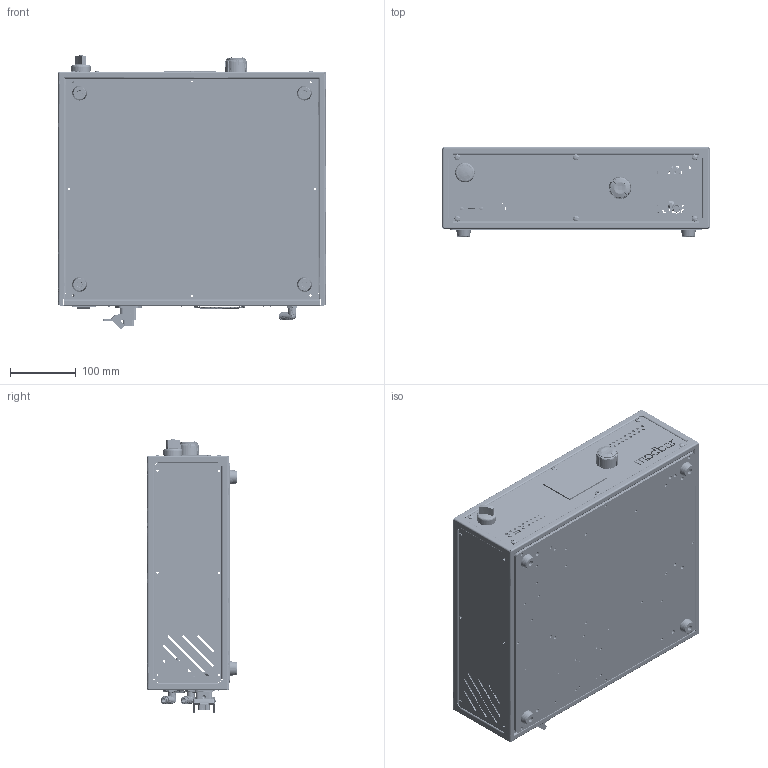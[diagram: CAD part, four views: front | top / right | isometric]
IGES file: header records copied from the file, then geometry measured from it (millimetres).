
Start section: SolidWorks IGES file using analytic representation for surfaces
Global section: file name: Z:\TD\DOCUMENTATION\Modelli 3D estetici x clienti\MODBAR EP\ESPRESSO ES\LM0013839_MODBAR-EP_ESPRESSO_MODULE.IGS; native system: SolidWorks 2017; preprocessor: SolidWorks 2017; author: Service3D; date: 180405.144516; units: millimetre
Bounding box: 406 x 135.74 x 414.78 mm (x, y, z)
Surface area: 1236547.7 mm2 (no closed solid volume)
Topology: 0 solids, 0 shells, 5686 faces, 62749 edges, 62543 vertices
Faces by surface type: bspline 3663, revolution 2023
